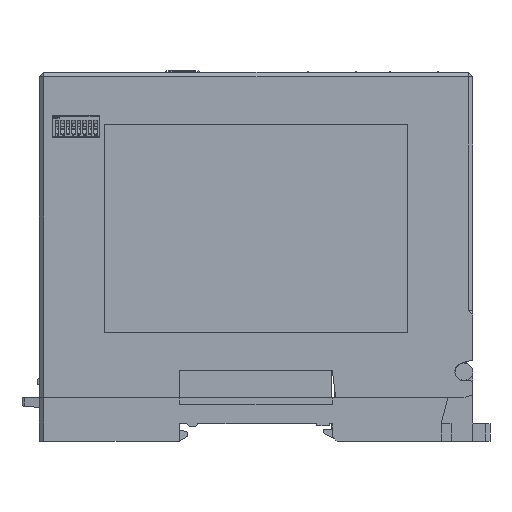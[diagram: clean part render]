
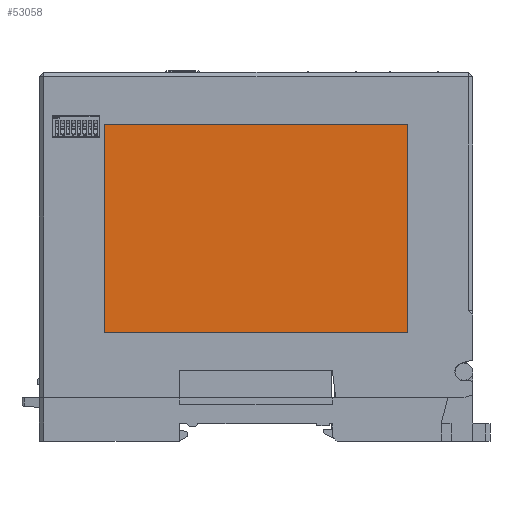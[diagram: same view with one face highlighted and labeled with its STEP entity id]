
A CAD part, left-side view. The second image highlights one B-rep face of the part: STEP entity #53058.
In plain terms, the highlighted planar face has unit normal (-1, 0, 0).
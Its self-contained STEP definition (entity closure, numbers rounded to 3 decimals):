
#3473 = CARTESIAN_POINT ( 'NONE',  ( -14.7, 35., 21.1 ) ) ;
#4699 = ORIENTED_EDGE ( 'NONE', *, *, #13340, .T. ) ;
#5054 = VECTOR ( 'NONE', #17608, 1000. ) ;
#6713 = VERTEX_POINT ( 'NONE', #35439 ) ;
#10107 = LINE ( 'NONE', #52157, #60116 ) ;
#13340 = EDGE_CURVE ( 'NONE', #20742, #6713, #61746, .T. ) ;
#14202 = DIRECTION ( 'NONE',  ( 0., 0., -1. ) ) ;
#16246 = DIRECTION ( 'NONE',  ( 0., 1., 0. ) ) ;
#17137 = EDGE_LOOP ( 'NONE', ( #36762, #29103, #4699, #56083 ) ) ;
#17608 = DIRECTION ( 'NONE',  ( 0., 0., 1. ) ) ;
#19646 = CARTESIAN_POINT ( 'NONE',  ( -14.7, -35., 21.1 ) ) ;
#20742 = VERTEX_POINT ( 'NONE', #3473 ) ;
#25816 = FACE_OUTER_BOUND ( 'NONE', #17137, .T. ) ;
#27839 = DIRECTION ( 'NONE',  ( 0., 0., -1. ) ) ;
#28875 = CARTESIAN_POINT ( 'NONE',  ( -14.7, -35., 21.1 ) ) ;
#29103 = ORIENTED_EDGE ( 'NONE', *, *, #35783, .T. ) ;
#29311 = EDGE_CURVE ( 'NONE', #6713, #47405, #44277, .T. ) ;
#32098 = AXIS2_PLACEMENT_3D ( 'NONE', #56284, #40206, #14202 ) ;
#35439 = CARTESIAN_POINT ( 'NONE',  ( -14.7, -35., 21.1 ) ) ;
#35783 = EDGE_CURVE ( 'NONE', #36651, #20742, #64442, .T. ) ;
#36009 = VECTOR ( 'NONE', #40529, 1000. ) ;
#36597 = CARTESIAN_POINT ( 'NONE',  ( -14.7, -35., 69.1 ) ) ;
#36651 = VERTEX_POINT ( 'NONE', #38627 ) ;
#36762 = ORIENTED_EDGE ( 'NONE', *, *, #43713, .T. ) ;
#38111 = CARTESIAN_POINT ( 'NONE',  ( -14.7, 35., 21.1 ) ) ;
#38627 = CARTESIAN_POINT ( 'NONE',  ( -14.7, 35., 69.1 ) ) ;
#40206 = DIRECTION ( 'NONE',  ( 1., 0., 0. ) ) ;
#40529 = DIRECTION ( 'NONE',  ( 0., -1., 0. ) ) ;
#43713 = EDGE_CURVE ( 'NONE', #47405, #36651, #10107, .T. ) ;
#44277 = LINE ( 'NONE', #28875, #5054 ) ;
#46680 = PLANE ( 'NONE',  #32098 ) ;
#47405 = VERTEX_POINT ( 'NONE', #36597 ) ;
#52157 = CARTESIAN_POINT ( 'NONE',  ( -14.7, -35., 69.1 ) ) ;
#53058 = ADVANCED_FACE ( 'NONE', ( #25816 ), #46680, .F. ) ;
#55306 = VECTOR ( 'NONE', #27839, 1000. ) ;
#56083 = ORIENTED_EDGE ( 'NONE', *, *, #29311, .T. ) ;
#56284 = CARTESIAN_POINT ( 'NONE',  ( -14.7, 0., 6.1 ) ) ;
#60116 = VECTOR ( 'NONE', #16246, 1000. ) ;
#61746 = LINE ( 'NONE', #19646, #36009 ) ;
#64442 = LINE ( 'NONE', #38111, #55306 ) ;
